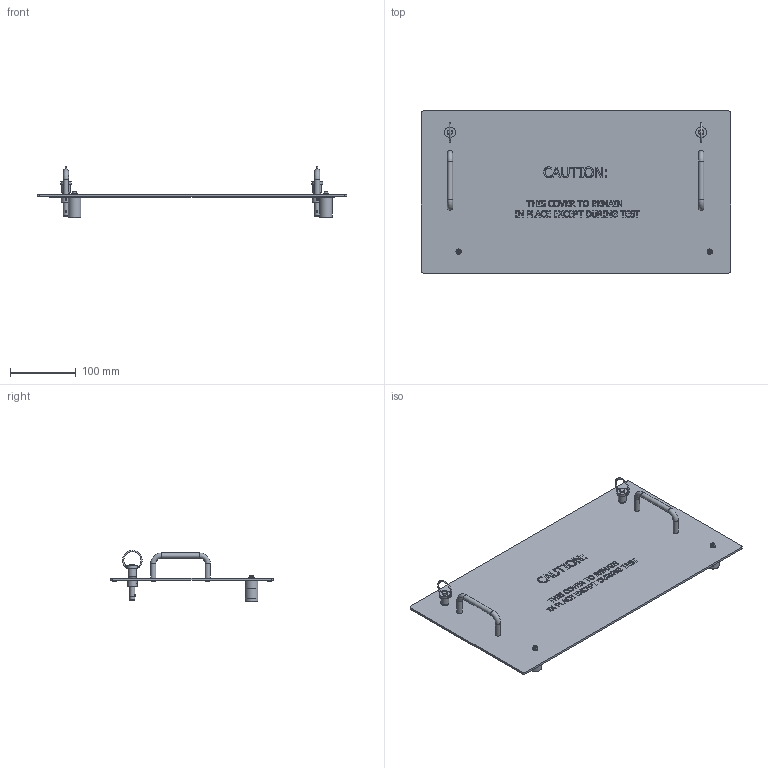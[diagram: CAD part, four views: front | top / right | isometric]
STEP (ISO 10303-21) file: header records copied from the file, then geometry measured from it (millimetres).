
FILE_DESCRIPTION(/* description */ (''),/* implementation_level */ '2;1');
FILE_NAME(/* name */ 'C:\Marketing\Inventor Web Projects\STP files\40-130260-01-RevF-STP.stp',/* time_stamp */ '2014-02-21T08:00:18-05:00',/* author */ ('shodnett'),/* organization */ (''),/* preprocessor_version */ 'ST-DEVELOPER v15.2',/* originating_system */ 'Autodesk Inventor 2014',/* authorisation */ '');
FILE_SCHEMA (('AUTOMOTIVE_DESIGN { 1 0 10303 214 3 1 1 }'));
Length unit declared in the file: inch
Products named in the file (12): 5512149; 930017; 632F44; 5515735; CAUTION1-LOGO3000; M92384A052; #28875; 5515883; M93625K112-17; M92785A110; MS15795-805B; 40-130260-01
Bounding box: 469.9 x 245.75 x 77.47 mm (x, y, z)
Volume: 410388.1 mm3; surface area: 279826.6 mm2
Topology: 79 solids, 79 shells, 1149 faces, 2807 edges, 1818 vertices
Faces by surface type: plane 752, bspline 225, cylinder 78, cone 66, torus 16, sphere 12
Full cylindrical faces by diameter (mm): 2.032 x4, 2.134 x4, 2.159 x4, 2.845 x4, 3.505 x10, 3.81 x8, 5.01 x2, 5.162 x2, 5.41 x2, 5.74 x2, 6.858 x4, 7.112 x2, 7.264 x2, 7.899 x2, 7.938 x6, 7.95 x2, 8.077 x2, 8.128 x2, 12.7 x2, 14.287 x2, 15.875 x2, 16.39 x2, 19.05 x2
Entity records: 28881 total; most frequent: CARTESIAN_POINT 8260, ORIENTED_EDGE 4308, DIRECTION 3209, EDGE_CURVE 2154, LINE 1545, VECTOR 1545, VERTEX_POINT 1464, EDGE_LOOP 1018
